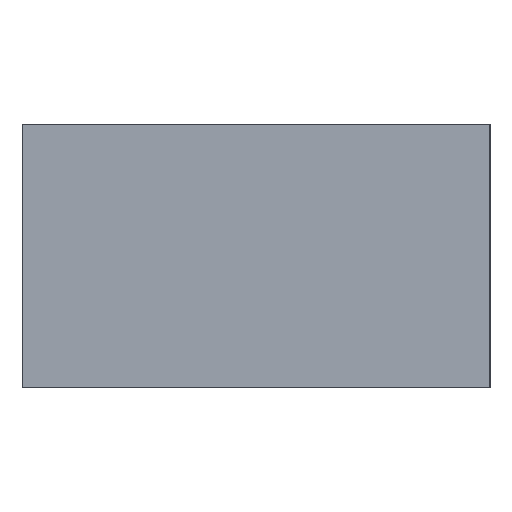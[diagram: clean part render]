
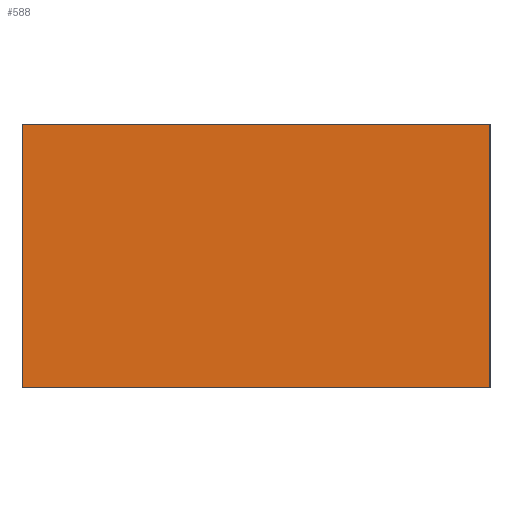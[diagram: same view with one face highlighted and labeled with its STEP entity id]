
A CAD part, front view. The second image highlights one B-rep face of the part: STEP entity #588.
In plain terms, the highlighted planar face has unit normal (0, -1, 0) as drawn and (0, 1, 0) by its records, which use the part's own axes.
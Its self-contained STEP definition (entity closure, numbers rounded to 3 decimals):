
#563 = VERTEX_POINT('',#564);
#564 = CARTESIAN_POINT('',(0.4,0.8,0.45));
#570 = EDGE_CURVE('',#571,#563,#573,.T.);
#571 = VERTEX_POINT('',#572);
#572 = CARTESIAN_POINT('',(-0.4,0.8,0.45));
#573 = LINE('',#574,#575);
#574 = CARTESIAN_POINT('',(-0.4,0.8,0.45));
#575 = VECTOR('',#576,1.);
#576 = DIRECTION('',(1.,0.,0.));
#588 = ADVANCED_FACE('',(#589),#614,.T.);
#589 = FACE_BOUND('',#590,.T.);
#590 = EDGE_LOOP('',(#591,#592,#600,#608));
#591 = ORIENTED_EDGE('',*,*,#570,.T.);
#592 = ORIENTED_EDGE('',*,*,#593,.T.);
#593 = EDGE_CURVE('',#563,#594,#596,.T.);
#594 = VERTEX_POINT('',#595);
#595 = CARTESIAN_POINT('',(0.4,0.8,0.));
#596 = LINE('',#597,#598);
#597 = CARTESIAN_POINT('',(0.4,0.8,0.45));
#598 = VECTOR('',#599,1.);
#599 = DIRECTION('',(0.,0.,-1.));
#600 = ORIENTED_EDGE('',*,*,#601,.F.);
#601 = EDGE_CURVE('',#602,#594,#604,.T.);
#602 = VERTEX_POINT('',#603);
#603 = CARTESIAN_POINT('',(-0.4,0.8,0.));
#604 = LINE('',#605,#606);
#605 = CARTESIAN_POINT('',(-0.4,0.8,0.));
#606 = VECTOR('',#607,1.);
#607 = DIRECTION('',(1.,0.,0.));
#608 = ORIENTED_EDGE('',*,*,#609,.F.);
#609 = EDGE_CURVE('',#571,#602,#610,.T.);
#610 = LINE('',#611,#612);
#611 = CARTESIAN_POINT('',(-0.4,0.8,0.45));
#612 = VECTOR('',#613,1.);
#613 = DIRECTION('',(0.,0.,-1.));
#614 = PLANE('',#615);
#615 = AXIS2_PLACEMENT_3D('',#616,#617,#618);
#616 = CARTESIAN_POINT('',(-0.4,0.8,0.45));
#617 = DIRECTION('',(0.,1.,0.));
#618 = DIRECTION('',(0.,0.,-1.));
